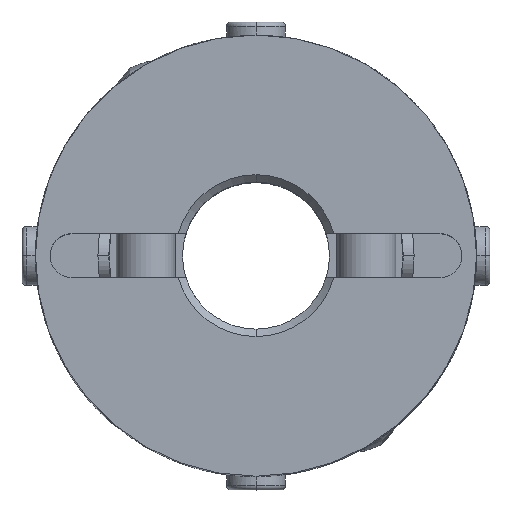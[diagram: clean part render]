
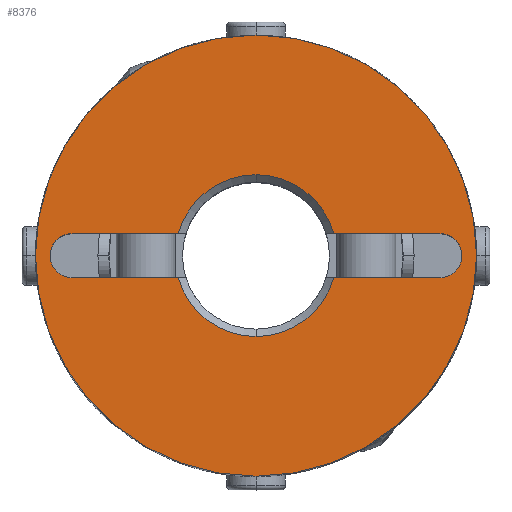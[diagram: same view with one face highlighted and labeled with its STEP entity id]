
A CAD part, top view. The second image highlights one B-rep face of the part: STEP entity #8376.
In plain terms, the highlighted planar face has unit normal (0, 0, 1).
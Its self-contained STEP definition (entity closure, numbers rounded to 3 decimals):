
#649=CARTESIAN_POINT('',(0.,5.5,15.0));
#650=VERTEX_POINT('',#649);
#666=CARTESIAN_POINT('',(5.292,1.5,15.0));
#667=VERTEX_POINT('',#666);
#681=CARTESIAN_POINT('',(0.,0.,15.0));
#682=DIRECTION('',(0.0,0.0,1.0));
#683=DIRECTION('',(0.0,1.0,0.0));
#684=AXIS2_PLACEMENT_3D('',#681,#682,#683);
#685=CIRCLE('',#684,5.5);
#686=EDGE_CURVE('',#667,#650,#685,.T.);
#696=CARTESIAN_POINT('',(0.,-5.5,15.0));
#697=VERTEX_POINT('',#696);
#706=CARTESIAN_POINT('',(5.292,-1.5,15.0));
#707=VERTEX_POINT('',#706);
#708=CARTESIAN_POINT('',(0.,0.,15.0));
#709=DIRECTION('',(0.0,0.0,1.0));
#710=DIRECTION('',(0.0,1.0,0.0));
#711=AXIS2_PLACEMENT_3D('',#708,#709,#710);
#712=CIRCLE('',#711,5.5);
#713=EDGE_CURVE('',#697,#707,#712,.T.);
#872=CARTESIAN_POINT('',(-13.561,-1.061,15.0));
#873=VERTEX_POINT('',#872);
#889=CARTESIAN_POINT('',(-12.5,1.5,15.0));
#890=VERTEX_POINT('',#889);
#897=CARTESIAN_POINT('',(-12.5,0.,15.0));
#898=DIRECTION('',(0.0,0.0,1.0));
#899=DIRECTION('',(-0.707,0.707,0.0));
#900=AXIS2_PLACEMENT_3D('',#897,#898,#899);
#901=CIRCLE('',#900,1.5);
#902=EDGE_CURVE('',#890,#873,#901,.T.);
#914=CARTESIAN_POINT('',(13.561,-1.061,15.0));
#915=VERTEX_POINT('',#914);
#931=CARTESIAN_POINT('',(12.5,-1.5,15.0));
#932=VERTEX_POINT('',#931);
#939=CARTESIAN_POINT('',(12.5,0.,15.0));
#940=DIRECTION('',(0.0,0.0,1.0));
#941=DIRECTION('',(0.707,-0.707,0.0));
#942=AXIS2_PLACEMENT_3D('',#939,#940,#941);
#943=CIRCLE('',#942,1.5);
#944=EDGE_CURVE('',#932,#915,#943,.T.);
#1489=CARTESIAN_POINT('',(0.,-15.,15.0));
#1490=VERTEX_POINT('',#1489);
#1497=CARTESIAN_POINT('',(0.,15.0,15.0));
#1498=VERTEX_POINT('',#1497);
#1499=CARTESIAN_POINT('',(0.,0.,15.0));
#1500=DIRECTION('',(0.0,0.0,-1.0));
#1501=DIRECTION('',(0.0,1.0,0.0));
#1502=AXIS2_PLACEMENT_3D('',#1499,#1500,#1501);
#1503=CIRCLE('',#1502,15.0);
#1504=EDGE_CURVE('',#1490,#1498,#1503,.T.);
#7577=CARTESIAN_POINT('',(0.,0.,15.0));
#7578=DIRECTION('',(0.0,0.0,-1.0));
#7579=DIRECTION('',(0.0,1.0,0.0));
#7580=AXIS2_PLACEMENT_3D('',#7577,#7578,#7579);
#7581=CIRCLE('',#7580,15.0);
#7582=EDGE_CURVE('',#1498,#1490,#7581,.T.);
#8142=CARTESIAN_POINT('',(12.5,1.5,15.0));
#8143=VERTEX_POINT('',#8142);
#8150=CARTESIAN_POINT('',(5.292,1.5,15.0));
#8151=DIRECTION('',(1.0,0.0,0.0));
#8152=VECTOR('',#8151,7.208);
#8153=LINE('',#8150,#8152);
#8154=EDGE_CURVE('',#667,#8143,#8153,.T.);
#8178=CARTESIAN_POINT('',(12.5,0.,15.0));
#8179=DIRECTION('',(0.0,0.0,1.0));
#8180=DIRECTION('',(0.707,-0.707,0.0));
#8181=AXIS2_PLACEMENT_3D('',#8178,#8179,#8180);
#8182=CIRCLE('',#8181,1.5);
#8183=EDGE_CURVE('',#915,#8143,#8182,.T.);
#8196=CARTESIAN_POINT('',(-12.5,-1.5,15.0));
#8197=VERTEX_POINT('',#8196);
#8198=CARTESIAN_POINT('',(-12.5,0.,15.0));
#8199=DIRECTION('',(0.0,0.0,1.0));
#8200=DIRECTION('',(-0.707,0.707,0.0));
#8201=AXIS2_PLACEMENT_3D('',#8198,#8199,#8200);
#8202=CIRCLE('',#8201,1.5);
#8203=EDGE_CURVE('',#873,#8197,#8202,.T.);
#8236=CARTESIAN_POINT('',(-5.292,1.5,15.0));
#8237=VERTEX_POINT('',#8236);
#8251=CARTESIAN_POINT('',(-12.5,1.5,15.0));
#8252=DIRECTION('',(1.0,0.0,0.0));
#8253=VECTOR('',#8252,7.208);
#8254=LINE('',#8251,#8253);
#8255=EDGE_CURVE('',#890,#8237,#8254,.T.);
#8270=CARTESIAN_POINT('',(-5.292,-1.5,15.0));
#8271=VERTEX_POINT('',#8270);
#8272=CARTESIAN_POINT('',(-5.292,-1.5,15.0));
#8273=DIRECTION('',(-1.0,0.0,0.0));
#8274=VECTOR('',#8273,7.208);
#8275=LINE('',#8272,#8274);
#8276=EDGE_CURVE('',#8271,#8197,#8275,.T.);
#8328=CARTESIAN_POINT('',(12.5,-1.5,15.0));
#8329=DIRECTION('',(-1.0,0.0,0.0));
#8330=VECTOR('',#8329,7.208);
#8331=LINE('',#8328,#8330);
#8332=EDGE_CURVE('',#932,#707,#8331,.T.);
#8341=CARTESIAN_POINT('',(0.,1.364,15.0));
#8342=DIRECTION('',(0.0,0.0,1.0));
#8343=DIRECTION('',(0.0,1.0,0.0));
#8344=AXIS2_PLACEMENT_3D('',#8341,#8342,#8343);
#8345=PLANE('',#8344);
#8346=ORIENTED_EDGE('',*,*,#7582,.F.);
#8347=ORIENTED_EDGE('',*,*,#1504,.F.);
#8348=EDGE_LOOP('',(#8346,#8347));
#8349=FACE_OUTER_BOUND('',#8348,.T.);
#8350=ORIENTED_EDGE('',*,*,#8154,.T.);
#8351=ORIENTED_EDGE('',*,*,#8183,.F.);
#8352=ORIENTED_EDGE('',*,*,#944,.F.);
#8353=ORIENTED_EDGE('',*,*,#8332,.T.);
#8354=ORIENTED_EDGE('',*,*,#713,.F.);
#8355=CARTESIAN_POINT('',(0.,0.,15.0));
#8356=DIRECTION('',(0.0,0.0,1.0));
#8357=DIRECTION('',(0.0,1.0,0.0));
#8358=AXIS2_PLACEMENT_3D('',#8355,#8356,#8357);
#8359=CIRCLE('',#8358,5.5);
#8360=EDGE_CURVE('',#8271,#697,#8359,.T.);
#8361=ORIENTED_EDGE('',*,*,#8360,.F.);
#8362=ORIENTED_EDGE('',*,*,#8276,.T.);
#8363=ORIENTED_EDGE('',*,*,#8203,.F.);
#8364=ORIENTED_EDGE('',*,*,#902,.F.);
#8365=ORIENTED_EDGE('',*,*,#8255,.T.);
#8366=CARTESIAN_POINT('',(0.,0.,15.0));
#8367=DIRECTION('',(0.0,0.0,1.0));
#8368=DIRECTION('',(0.0,1.0,0.0));
#8369=AXIS2_PLACEMENT_3D('',#8366,#8367,#8368);
#8370=CIRCLE('',#8369,5.5);
#8371=EDGE_CURVE('',#650,#8237,#8370,.T.);
#8372=ORIENTED_EDGE('',*,*,#8371,.F.);
#8373=ORIENTED_EDGE('',*,*,#686,.F.);
#8374=EDGE_LOOP('',(#8350,#8351,#8352,#8353,#8354,#8361,#8362,#8363,#8364,#8365,#8372,#8373));
#8375=FACE_BOUND('',#8374,.T.);
#8376=ADVANCED_FACE('',(#8349,#8375),#8345,.T.);
